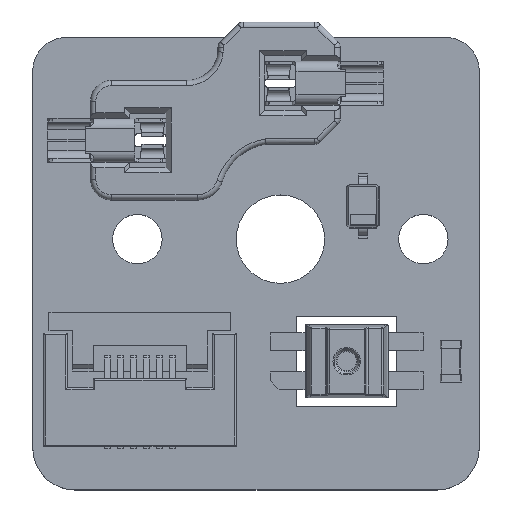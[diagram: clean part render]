
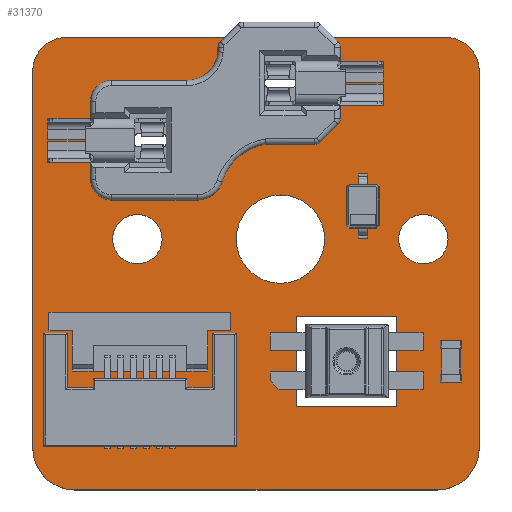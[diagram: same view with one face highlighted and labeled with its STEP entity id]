
A CAD part, top view. The second image highlights one B-rep face of the part: STEP entity #31370.
In plain terms, the highlighted planar face has unit normal (0, 0, 1).
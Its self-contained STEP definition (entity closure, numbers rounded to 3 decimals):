
#31132 = VERTEX_POINT('',#31133);
#31133 = CARTESIAN_POINT('',(154.88,-97.25,1.51));
#31139 = EDGE_CURVE('',#31132,#31140,#31142,.T.);
#31140 = VERTEX_POINT('',#31141);
#31141 = CARTESIAN_POINT('',(156.15,-98.52,1.51));
#31142 = CIRCLE('',#31143,1.27);
#31143 = AXIS2_PLACEMENT_3D('',#31144,#31145,#31146);
#31144 = CARTESIAN_POINT('',(154.88,-98.52,1.51));
#31145 = DIRECTION('',(0.,0.,-1.));
#31146 = DIRECTION('',(0.,1.,0.));
#31174 = VERTEX_POINT('',#31175);
#31175 = CARTESIAN_POINT('',(140.246,-97.25,1.51));
#31181 = EDGE_CURVE('',#31174,#31132,#31182,.T.);
#31182 = LINE('',#31183,#31184);
#31183 = CARTESIAN_POINT('',(140.246,-97.25,1.51));
#31184 = VECTOR('',#31185,1.);
#31185 = DIRECTION('',(1.,0.,0.));
#31203 = EDGE_CURVE('',#31140,#31204,#31206,.T.);
#31204 = VERTEX_POINT('',#31205);
#31205 = CARTESIAN_POINT('',(156.15,-113.031,1.51));
#31206 = LINE('',#31207,#31208);
#31207 = CARTESIAN_POINT('',(156.15,-98.52,1.51));
#31208 = VECTOR('',#31209,1.);
#31209 = DIRECTION('',(0.,-1.,0.));
#31370 = ADVANCED_FACE('',(#31371,#31417,#31428,#31462,#31473,#31484,
    #31495),#31506,.T.);
#31371 = FACE_BOUND('',#31372,.T.);
#31372 = EDGE_LOOP('',(#31373,#31374,#31375,#31384,#31392,#31401,#31409,
    #31416));
#31373 = ORIENTED_EDGE('',*,*,#31139,.F.);
#31374 = ORIENTED_EDGE('',*,*,#31181,.F.);
#31375 = ORIENTED_EDGE('',*,*,#31376,.F.);
#31376 = EDGE_CURVE('',#31377,#31174,#31379,.T.);
#31377 = VERTEX_POINT('',#31378);
#31378 = CARTESIAN_POINT('',(138.976,-98.52,1.51));
#31379 = CIRCLE('',#31380,1.27);
#31380 = AXIS2_PLACEMENT_3D('',#31381,#31382,#31383);
#31381 = CARTESIAN_POINT('',(140.246,-98.52,1.51));
#31382 = DIRECTION('',(0.,0.,-1.));
#31383 = DIRECTION('',(-1.,0.,-0.));
#31384 = ORIENTED_EDGE('',*,*,#31385,.F.);
#31385 = EDGE_CURVE('',#31386,#31377,#31388,.T.);
#31386 = VERTEX_POINT('',#31387);
#31387 = CARTESIAN_POINT('',(138.976,-113.031,1.51));
#31388 = LINE('',#31389,#31390);
#31389 = CARTESIAN_POINT('',(138.976,-113.031,1.51));
#31390 = VECTOR('',#31391,1.);
#31391 = DIRECTION('',(0.,1.,0.));
#31392 = ORIENTED_EDGE('',*,*,#31393,.F.);
#31393 = EDGE_CURVE('',#31394,#31386,#31396,.T.);
#31394 = VERTEX_POINT('',#31395);
#31395 = CARTESIAN_POINT('',(140.595,-114.65,1.51));
#31396 = CIRCLE('',#31397,1.619);
#31397 = AXIS2_PLACEMENT_3D('',#31398,#31399,#31400);
#31398 = CARTESIAN_POINT('',(140.595,-113.031,1.51));
#31399 = DIRECTION('',(0.,0.,-1.));
#31400 = DIRECTION('',(0.,-1.,-0.));
#31401 = ORIENTED_EDGE('',*,*,#31402,.F.);
#31402 = EDGE_CURVE('',#31403,#31394,#31405,.T.);
#31403 = VERTEX_POINT('',#31404);
#31404 = CARTESIAN_POINT('',(154.531,-114.65,1.51));
#31405 = LINE('',#31406,#31407);
#31406 = CARTESIAN_POINT('',(154.531,-114.65,1.51));
#31407 = VECTOR('',#31408,1.);
#31408 = DIRECTION('',(-1.,0.,0.));
#31409 = ORIENTED_EDGE('',*,*,#31410,.F.);
#31410 = EDGE_CURVE('',#31204,#31403,#31411,.T.);
#31411 = CIRCLE('',#31412,1.619);
#31412 = AXIS2_PLACEMENT_3D('',#31413,#31414,#31415);
#31413 = CARTESIAN_POINT('',(154.531,-113.031,1.51));
#31414 = DIRECTION('',(0.,0.,-1.));
#31415 = DIRECTION('',(1.,0.,0.));
#31416 = ORIENTED_EDGE('',*,*,#31203,.F.);
#31417 = FACE_BOUND('',#31418,.T.);
#31418 = EDGE_LOOP('',(#31419));
#31419 = ORIENTED_EDGE('',*,*,#31420,.T.);
#31420 = EDGE_CURVE('',#31421,#31421,#31423,.T.);
#31421 = VERTEX_POINT('',#31422);
#31422 = CARTESIAN_POINT('',(143.001,-105.954,1.51));
#31423 = CIRCLE('',#31424,0.95);
#31424 = AXIS2_PLACEMENT_3D('',#31425,#31426,#31427);
#31425 = CARTESIAN_POINT('',(143.001,-105.004,1.51));
#31426 = DIRECTION('',(-0.,0.,-1.));
#31427 = DIRECTION('',(-0.,-1.,0.));
#31428 = FACE_BOUND('',#31429,.T.);
#31429 = EDGE_LOOP('',(#31430,#31440,#31448,#31456));
#31430 = ORIENTED_EDGE('',*,*,#31431,.F.);
#31431 = EDGE_CURVE('',#31432,#31434,#31436,.T.);
#31432 = VERTEX_POINT('',#31433);
#31433 = CARTESIAN_POINT('',(149.123,-111.427,1.51));
#31434 = VERTEX_POINT('',#31435);
#31435 = CARTESIAN_POINT('',(152.977,-111.427,1.51));
#31436 = LINE('',#31437,#31438);
#31437 = CARTESIAN_POINT('',(149.123,-111.427,1.51));
#31438 = VECTOR('',#31439,1.);
#31439 = DIRECTION('',(1.,0.,0.));
#31440 = ORIENTED_EDGE('',*,*,#31441,.F.);
#31441 = EDGE_CURVE('',#31442,#31432,#31444,.T.);
#31442 = VERTEX_POINT('',#31443);
#31443 = CARTESIAN_POINT('',(149.123,-107.973,1.51));
#31444 = LINE('',#31445,#31446);
#31445 = CARTESIAN_POINT('',(149.123,-107.973,1.51));
#31446 = VECTOR('',#31447,1.);
#31447 = DIRECTION('',(0.,-1.,0.));
#31448 = ORIENTED_EDGE('',*,*,#31449,.F.);
#31449 = EDGE_CURVE('',#31450,#31442,#31452,.T.);
#31450 = VERTEX_POINT('',#31451);
#31451 = CARTESIAN_POINT('',(152.977,-107.973,1.51));
#31452 = LINE('',#31453,#31454);
#31453 = CARTESIAN_POINT('',(152.977,-107.973,1.51));
#31454 = VECTOR('',#31455,1.);
#31455 = DIRECTION('',(-1.,0.,0.));
#31456 = ORIENTED_EDGE('',*,*,#31457,.F.);
#31457 = EDGE_CURVE('',#31434,#31450,#31458,.T.);
#31458 = LINE('',#31459,#31460);
#31459 = CARTESIAN_POINT('',(152.977,-111.427,1.51));
#31460 = VECTOR('',#31461,1.);
#31461 = DIRECTION('',(0.,1.,0.));
#31462 = FACE_BOUND('',#31463,.T.);
#31463 = EDGE_LOOP('',(#31464));
#31464 = ORIENTED_EDGE('',*,*,#31465,.T.);
#31465 = EDGE_CURVE('',#31466,#31466,#31468,.T.);
#31466 = VERTEX_POINT('',#31467);
#31467 = CARTESIAN_POINT('',(148.501,-106.704,1.51));
#31468 = CIRCLE('',#31469,1.7);
#31469 = AXIS2_PLACEMENT_3D('',#31470,#31471,#31472);
#31470 = CARTESIAN_POINT('',(148.501,-105.004,1.51));
#31471 = DIRECTION('',(-0.,0.,-1.));
#31472 = DIRECTION('',(-0.,-1.,0.));
#31473 = FACE_BOUND('',#31474,.T.);
#31474 = EDGE_LOOP('',(#31475));
#31475 = ORIENTED_EDGE('',*,*,#31476,.T.);
#31476 = EDGE_CURVE('',#31477,#31477,#31479,.T.);
#31477 = VERTEX_POINT('',#31478);
#31478 = CARTESIAN_POINT('',(154.001,-105.954,1.51));
#31479 = CIRCLE('',#31480,0.95);
#31480 = AXIS2_PLACEMENT_3D('',#31481,#31482,#31483);
#31481 = CARTESIAN_POINT('',(154.001,-105.004,1.51));
#31482 = DIRECTION('',(-0.,0.,-1.));
#31483 = DIRECTION('',(-0.,-1.,0.));
#31484 = FACE_BOUND('',#31485,.T.);
#31485 = EDGE_LOOP('',(#31486));
#31486 = ORIENTED_EDGE('',*,*,#31487,.T.);
#31487 = EDGE_CURVE('',#31488,#31488,#31490,.T.);
#31488 = VERTEX_POINT('',#31489);
#31489 = CARTESIAN_POINT('',(143.501,-102.704,1.51));
#31490 = CIRCLE('',#31491,1.5);
#31491 = AXIS2_PLACEMENT_3D('',#31492,#31493,#31494);
#31492 = CARTESIAN_POINT('',(143.501,-101.204,1.51));
#31493 = DIRECTION('',(-0.,0.,-1.));
#31494 = DIRECTION('',(-0.,-1.,0.));
#31495 = FACE_BOUND('',#31496,.T.);
#31496 = EDGE_LOOP('',(#31497));
#31497 = ORIENTED_EDGE('',*,*,#31498,.T.);
#31498 = EDGE_CURVE('',#31499,#31499,#31501,.T.);
#31499 = VERTEX_POINT('',#31500);
#31500 = CARTESIAN_POINT('',(148.501,-100.604,1.51));
#31501 = CIRCLE('',#31502,1.5);
#31502 = AXIS2_PLACEMENT_3D('',#31503,#31504,#31505);
#31503 = CARTESIAN_POINT('',(148.501,-99.104,1.51));
#31504 = DIRECTION('',(-0.,0.,-1.));
#31505 = DIRECTION('',(-0.,-1.,0.));
#31506 = PLANE('',#31507);
#31507 = AXIS2_PLACEMENT_3D('',#31508,#31509,#31510);
#31508 = CARTESIAN_POINT('',(0.,0.,1.51));
#31509 = DIRECTION('',(0.,0.,1.));
#31510 = DIRECTION('',(1.,0.,-0.));
